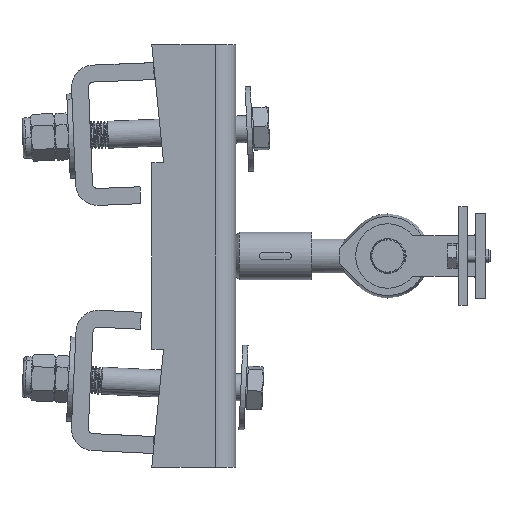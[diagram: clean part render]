
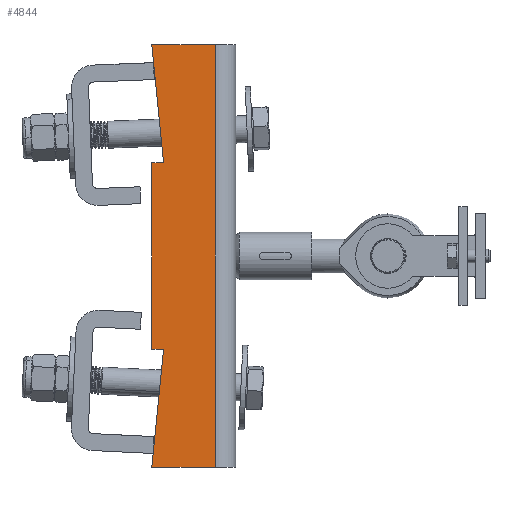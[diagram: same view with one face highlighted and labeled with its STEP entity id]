
A CAD part, left-side view. The second image highlights one B-rep face of the part: STEP entity #4844.
In plain terms, the highlighted planar face has unit normal (-1, 0, 0).
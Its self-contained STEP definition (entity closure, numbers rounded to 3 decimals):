
#606 = VERTEX_POINT ( 'NONE', #12930 ) ;
#679 = VERTEX_POINT ( 'NONE', #12976 ) ;
#1915 = DIRECTION ( 'NONE',  ( 0., -0.1, 0.995 ) ) ;
#1920 = CARTESIAN_POINT ( 'NONE',  ( -41., 30.684, -10. ) ) ;
#2013 = CARTESIAN_POINT ( 'NONE',  ( -41., 29.684, 70. ) ) ;
#2020 = DIRECTION ( 'NONE',  ( 0., 1., 0. ) ) ;
#2029 = CARTESIAN_POINT ( 'NONE',  ( -41., 29.684, 250. ) ) ;
#2030 = DIRECTION ( 'NONE',  ( 0., 0., 1. ) ) ;
#2456 = CARTESIAN_POINT ( 'NONE',  ( -41., 29.684, 250. ) ) ;
#2457 = DIRECTION ( 'NONE',  ( 0., -1., 0. ) ) ;
#3298 = CARTESIAN_POINT ( 'NONE',  ( -41., 22.684, 180. ) ) ;
#3313 = DIRECTION ( 'NONE',  ( 0., 0.1, 0.995 ) ) ;
#3578 = CARTESIAN_POINT ( 'NONE',  ( -41., -7.92, 250. ) ) ;
#3579 = DIRECTION ( 'NONE',  ( 0., 0., -1. ) ) ;
#3903 = CARTESIAN_POINT ( 'NONE',  ( -41., 29.684, 70. ) ) ;
#4233 = VECTOR ( 'NONE', #9217, 1000. ) ;
#4235 = LINE ( 'NONE', #9216, #4233 ) ;
#4347 = VECTOR ( 'NONE', #2457, 1000. ) ;
#4350 = LINE ( 'NONE', #2456, #4347 ) ;
#4520 = VECTOR ( 'NONE', #2030, 1000. ) ;
#4522 = LINE ( 'NONE', #2029, #4520 ) ;
#4526 = VECTOR ( 'NONE', #2020, 1000. ) ;
#4528 = LINE ( 'NONE', #2013, #4526 ) ;
#4574 = VECTOR ( 'NONE', #1915, 1000. ) ;
#4578 = LINE ( 'NONE', #1920, #4574 ) ;
#4844 = ADVANCED_FACE ( 'NONE', ( #7374 ), #12936, .F. ) ;
#5291 = CARTESIAN_POINT ( 'NONE',  ( -41., 29.684, 180. ) ) ;
#6000 = CARTESIAN_POINT ( 'NONE',  ( -41., 22.684, 180. ) ) ;
#6141 = CARTESIAN_POINT ( 'NONE',  ( -41., -7.92, 0. ) ) ;
#6248 = VERTEX_POINT ( 'NONE', #12377 ) ;
#6547 = VERTEX_POINT ( 'NONE', #7346 ) ;
#6566 = VERTEX_POINT ( 'NONE', #6000 ) ;
#6580 = VERTEX_POINT ( 'NONE', #6141 ) ;
#6619 = VERTEX_POINT ( 'NONE', #5291 ) ;
#6679 = VERTEX_POINT ( 'NONE', #3903 ) ;
#7346 = CARTESIAN_POINT ( 'NONE',  ( -41., -7.92, 250. ) ) ;
#7374 = FACE_OUTER_BOUND ( 'NONE', #7792, .T. ) ;
#7792 = EDGE_LOOP ( 'NONE', ( #8205, #8206, #8224, #8227, #8229, #8230, #8231, #8232 ) ) ;
#8205 = ORIENTED_EDGE ( 'NONE', *, *, #10216, .F. ) ;
#8206 = ORIENTED_EDGE ( 'NONE', *, *, #14997, .F. ) ;
#8224 = ORIENTED_EDGE ( 'NONE', *, *, #11590, .F. ) ;
#8227 = ORIENTED_EDGE ( 'NONE', *, *, #11578, .F. ) ;
#8229 = ORIENTED_EDGE ( 'NONE', *, *, #11515, .F. ) ;
#8230 = ORIENTED_EDGE ( 'NONE', *, *, #13433, .F. ) ;
#8231 = ORIENTED_EDGE ( 'NONE', *, *, #10172, .F. ) ;
#8232 = ORIENTED_EDGE ( 'NONE', *, *, #12036, .F. ) ;
#9216 = CARTESIAN_POINT ( 'NONE',  ( -41., 29.684, 0. ) ) ;
#9217 = DIRECTION ( 'NONE',  ( 0., 1., 0. ) ) ;
#9652 = CARTESIAN_POINT ( 'NONE',  ( -41., 29.684, 180. ) ) ;
#9653 = DIRECTION ( 'NONE',  ( 0., -1., 0. ) ) ;
#10172 = EDGE_CURVE ( 'NONE', #6547, #6580, #10880, .T. ) ;
#10216 = EDGE_CURVE ( 'NONE', #6566, #679, #10826, .T. ) ;
#10820 = VECTOR ( 'NONE', #3313, 1000. ) ;
#10826 = LINE ( 'NONE', #3298, #10820 ) ;
#10880 = LINE ( 'NONE', #3578, #10886 ) ;
#10886 = VECTOR ( 'NONE', #3579, 1000. ) ;
#11515 = EDGE_CURVE ( 'NONE', #6248, #606, #4578, .T. ) ;
#11578 = EDGE_CURVE ( 'NONE', #606, #6679, #4528, .T. ) ;
#11590 = EDGE_CURVE ( 'NONE', #6679, #6619, #4522, .T. ) ;
#12036 = EDGE_CURVE ( 'NONE', #679, #6547, #4350, .T. ) ;
#12377 = CARTESIAN_POINT ( 'NONE',  ( -41., 29.684, 0. ) ) ;
#12915 = DIRECTION ( 'NONE',  ( 0., 1., 0. ) ) ;
#12930 = CARTESIAN_POINT ( 'NONE',  ( -41., 22.684, 70. ) ) ;
#12934 = DIRECTION ( 'NONE',  ( 1., 0., 0. ) ) ;
#12936 = PLANE ( 'NONE',  #15032 ) ;
#12938 = CARTESIAN_POINT ( 'NONE',  ( -41., 29.684, 250. ) ) ;
#12976 = CARTESIAN_POINT ( 'NONE',  ( -41., 29.684, 250. ) ) ;
#13433 = EDGE_CURVE ( 'NONE', #6580, #6248, #4235, .T. ) ;
#14997 = EDGE_CURVE ( 'NONE', #6619, #6566, #15851, .T. ) ;
#15032 = AXIS2_PLACEMENT_3D ( 'NONE', #12938, #12934, #12915 ) ;
#15848 = VECTOR ( 'NONE', #9653, 1000. ) ;
#15851 = LINE ( 'NONE', #9652, #15848 ) ;
